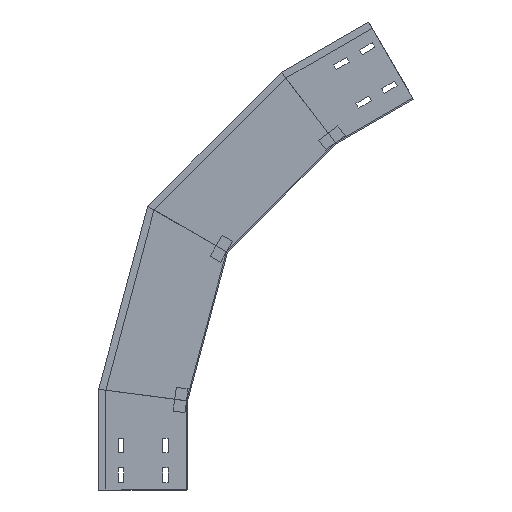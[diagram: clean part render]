
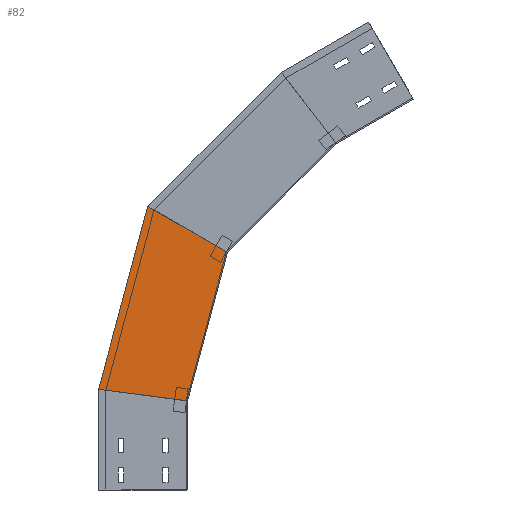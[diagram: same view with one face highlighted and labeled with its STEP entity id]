
A CAD part, left-side view. The second image highlights one B-rep face of the part: STEP entity #82.
In plain terms, the highlighted planar face has unit normal (-1, 0, 0) as drawn and (1, 0, 0) by its records, which use the part's own axes.
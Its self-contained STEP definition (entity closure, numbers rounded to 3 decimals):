
#36 = EDGE_CURVE ( 'NONE', #1932, #200, #1406, .T. ) ;
#37 = FACE_OUTER_BOUND ( 'NONE', #2102, .T. ) ;
#43 = CARTESIAN_POINT ( 'NONE',  ( 0., -129.979, 363.834 ) ) ;
#82 = ADVANCED_FACE ( 'NONE', ( #37 ), #1423, .T. ) ;
#139 = AXIS2_PLACEMENT_3D ( 'NONE', #725, #1258, #1411 ) ;
#199 = CARTESIAN_POINT ( 'NONE',  ( 0., 67.452, 477.821 ) ) ;
#200 = VERTEX_POINT ( 'NONE', #1146 ) ;
#206 = CARTESIAN_POINT ( 'NONE',  ( 0., 70.365, 474.908 ) ) ;
#266 = EDGE_CURVE ( 'NONE', #1932, #546, #2119, .T. ) ;
#546 = VERTEX_POINT ( 'NONE', #1392 ) ;
#573 = DIRECTION ( 'NONE',  ( 0., -0.866, -0.5 ) ) ;
#595 = LINE ( 'NONE', #1718, #657 ) ;
#650 = ORIENTED_EDGE ( 'NONE', *, *, #266, .F. ) ;
#657 = VECTOR ( 'NONE', #1548, 1000. ) ;
#725 = CARTESIAN_POINT ( 'NONE',  ( 0., -35.701, 368.842 ) ) ;
#799 = VECTOR ( 'NONE', #1810, 1000. ) ;
#875 = DIRECTION ( 'NONE',  ( 0., -0.707, 0.707 ) ) ;
#927 = VECTOR ( 'NONE', #875, 1000. ) ;
#998 = VECTOR ( 'NONE', #573, 1000. ) ;
#1137 = ORIENTED_EDGE ( 'NONE', *, *, #36, .T. ) ;
#1142 = CARTESIAN_POINT ( 'NONE',  ( 0., -274.276, 551.906 ) ) ;
#1146 = CARTESIAN_POINT ( 'NONE',  ( 0., -158.073, 703.345 ) ) ;
#1258 = DIRECTION ( 'NONE',  ( 1., 0., 0. ) ) ;
#1392 = CARTESIAN_POINT ( 'NONE',  ( 0., -67.034, 400.175 ) ) ;
#1406 = LINE ( 'NONE', #206, #927 ) ;
#1411 = DIRECTION ( 'NONE',  ( 0., 0., -1. ) ) ;
#1423 = PLANE ( 'NONE',  #139 ) ;
#1468 = LINE ( 'NONE', #1142, #799 ) ;
#1548 = DIRECTION ( 'NONE',  ( 0., -0.707, 0.707 ) ) ;
#1658 = CARTESIAN_POINT ( 'NONE',  ( 0., -250.175, 583.315 ) ) ;
#1718 = CARTESIAN_POINT ( 'NONE',  ( 0., -35.701, 368.842 ) ) ;
#1810 = DIRECTION ( 'NONE',  ( 0., -0.609, -0.793 ) ) ;
#1914 = ORIENTED_EDGE ( 'NONE', *, *, #2071, .T. ) ;
#1932 = VERTEX_POINT ( 'NONE', #199 ) ;
#2004 = EDGE_CURVE ( 'NONE', #546, #2090, #595, .T. ) ;
#2071 = EDGE_CURVE ( 'NONE', #200, #2090, #1468, .T. ) ;
#2090 = VERTEX_POINT ( 'NONE', #1658 ) ;
#2102 = EDGE_LOOP ( 'NONE', ( #1137, #1914, #2194, #650 ) ) ;
#2119 = LINE ( 'NONE', #43, #998 ) ;
#2194 = ORIENTED_EDGE ( 'NONE', *, *, #2004, .F. ) ;
